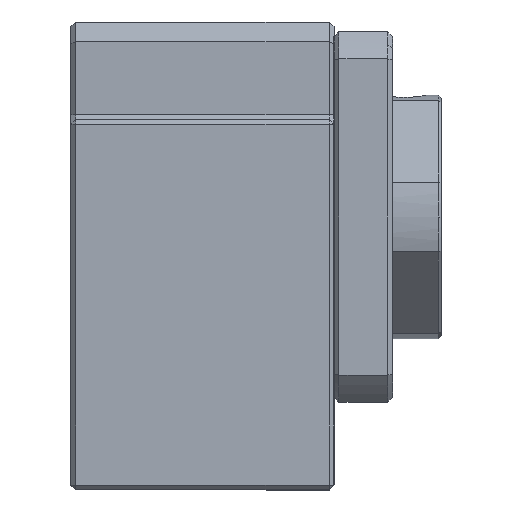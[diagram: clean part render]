
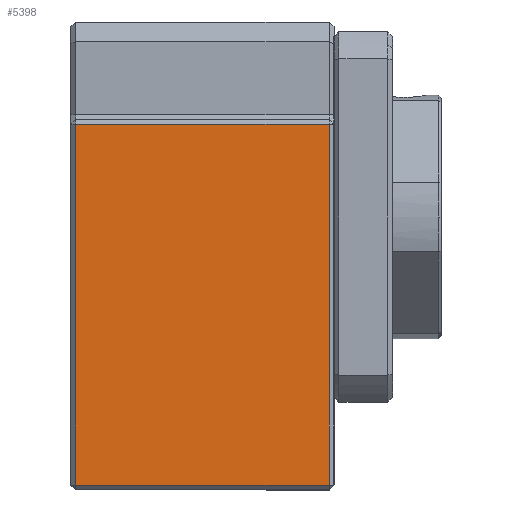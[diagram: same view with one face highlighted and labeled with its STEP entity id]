
A CAD part, front view. The second image highlights one B-rep face of the part: STEP entity #5398.
In plain terms, the highlighted planar face has unit normal (0, -1, 0) as drawn and (-1, 0, 0) by its records, which use the part's own axes.
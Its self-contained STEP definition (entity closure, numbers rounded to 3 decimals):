
#1647 = VERTEX_POINT ( 'NONE', #24137 ) ;
#1654 = VERTEX_POINT ( 'NONE', #24194 ) ;
#4969 = EDGE_CURVE ( 'NONE', #1654, #1647, #11739, .T. ) ;
#4975 = VERTEX_POINT ( 'NONE', #11791 ) ;
#4977 = EDGE_CURVE ( 'NONE', #1647, #4975, #11790, .T. ) ;
#4982 = EDGE_CURVE ( 'NONE', #4983, #1654, #11780, .T. ) ;
#4983 = VERTEX_POINT ( 'NONE', #11776 ) ;
#5379 = EDGE_CURVE ( 'NONE', #4975, #4983, #12554, .T. ) ;
#5398 = ADVANCED_FACE ( 'NONE', ( #12581 ), #12580, .T. ) ;
#5399 = EDGE_LOOP ( 'NONE', ( #5400, #5401, #5402, #5403 ) ) ;
#5400 = ORIENTED_EDGE ( 'NONE', *, *, #4982, .T. ) ;
#5401 = ORIENTED_EDGE ( 'NONE', *, *, #4969, .T. ) ;
#5402 = ORIENTED_EDGE ( 'NONE', *, *, #4977, .T. ) ;
#5403 = ORIENTED_EDGE ( 'NONE', *, *, #5379, .T. ) ;
#11736 = DIRECTION ( 'NONE',  ( 0., 0., 1. ) ) ;
#11737 = VECTOR ( 'NONE', #11736, 1000. ) ;
#11738 = CARTESIAN_POINT ( 'NONE',  ( -35., -13., 0. ) ) ;
#11739 = LINE ( 'NONE', #11738, #11737 ) ;
#11776 = CARTESIAN_POINT ( 'NONE',  ( -35., 13., 0.5 ) ) ;
#11777 = DIRECTION ( 'NONE',  ( 0., -1., 0. ) ) ;
#11778 = VECTOR ( 'NONE', #11777, 1000. ) ;
#11779 = CARTESIAN_POINT ( 'NONE',  ( -35., -13.5, 0.5 ) ) ;
#11780 = LINE ( 'NONE', #11779, #11778 ) ;
#11787 = DIRECTION ( 'NONE',  ( 0., 1., 0. ) ) ;
#11788 = VECTOR ( 'NONE', #11787, 1000. ) ;
#11789 = CARTESIAN_POINT ( 'NONE',  ( -35., -13.5, 37.5 ) ) ;
#11790 = LINE ( 'NONE', #11789, #11788 ) ;
#11791 = CARTESIAN_POINT ( 'NONE',  ( -35., 13., 37.5 ) ) ;
#12551 = DIRECTION ( 'NONE',  ( 0., 0., -1. ) ) ;
#12552 = VECTOR ( 'NONE', #12551, 1000. ) ;
#12553 = CARTESIAN_POINT ( 'NONE',  ( -35., 13., 38. ) ) ;
#12554 = LINE ( 'NONE', #12553, #12552 ) ;
#12576 = DIRECTION ( 'NONE',  ( 0., 0., 1. ) ) ;
#12577 = DIRECTION ( 'NONE',  ( -1., 0., 0. ) ) ;
#12578 = CARTESIAN_POINT ( 'NONE',  ( -35., -13.5, 0. ) ) ;
#12579 = AXIS2_PLACEMENT_3D ( 'NONE', #12578, #12577, #12576 ) ;
#12580 = PLANE ( 'NONE',  #12579 ) ;
#12581 = FACE_OUTER_BOUND ( 'NONE', #5399, .T. ) ;
#24137 = CARTESIAN_POINT ( 'NONE',  ( -35., -13., 37.5 ) ) ;
#24194 = CARTESIAN_POINT ( 'NONE',  ( -35., -13., 0.5 ) ) ;
